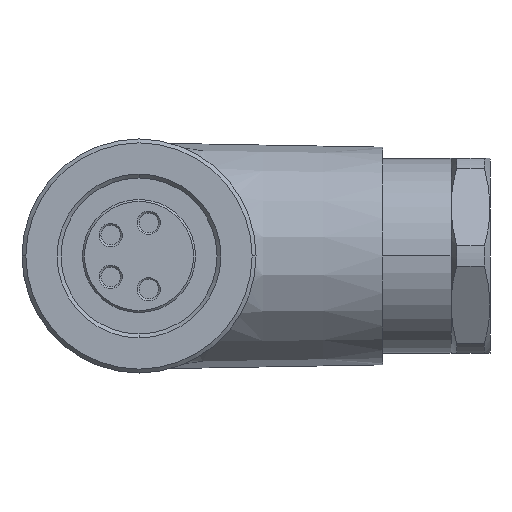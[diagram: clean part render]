
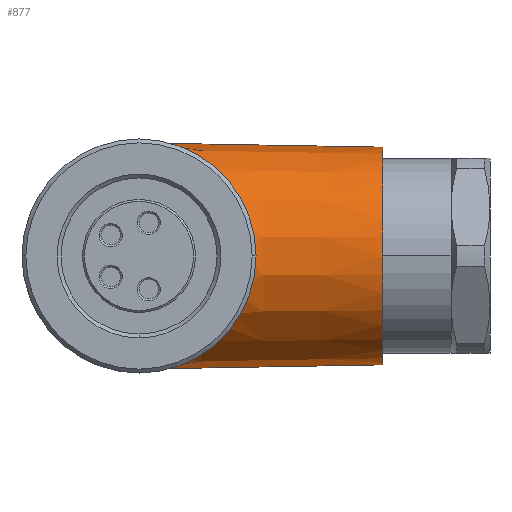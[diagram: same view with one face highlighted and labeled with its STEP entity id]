
A CAD part, front view. The second image highlights one B-rep face of the part: STEP entity #877.
In plain terms, the highlighted conical face has half-angle 1 degrees and reference radius 5.691 mm.
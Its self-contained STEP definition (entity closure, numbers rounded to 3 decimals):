
#6 = CARTESIAN_POINT ( 'NONE',  ( 12.5, 14., 5.582 ) ) ;
#13 = VECTOR ( 'NONE', #209, 1000. ) ;
#39 = VERTEX_POINT ( 'NONE', #6 ) ;
#60 = CARTESIAN_POINT ( 'NONE',  ( 1.742, 12.362, 5.542 ) ) ;
#82 = CARTESIAN_POINT ( 'NONE',  ( 4.458, 9.644, 3.716 ) ) ;
#106 = CARTESIAN_POINT ( 'NONE',  ( 5.8, 8.301, 0. ) ) ;
#115 = EDGE_CURVE ( 'NONE', #1540, #2723, #2311, .T. ) ;
#119 = CARTESIAN_POINT ( 'NONE',  ( 3.533, 10.569, -4.614 ) ) ;
#141 = CARTESIAN_POINT ( 'NONE',  ( 5.8, 8.301, 0. ) ) ;
#209 = DIRECTION ( 'NONE',  ( -1., 0., -0.017 ) ) ;
#316 = CARTESIAN_POINT ( 'NONE',  ( 5.12, 8.982, 2.733 ) ) ;
#326 = CARTESIAN_POINT ( 'NONE',  ( 0.79, 13.318, -5.748 ) ) ;
#328 = CARTESIAN_POINT ( 'NONE',  ( 0.473, 13.641, 5.781 ) ) ;
#338 = CARTESIAN_POINT ( 'NONE',  ( 0.551, 13.561, -5.774 ) ) ;
#350 = CARTESIAN_POINT ( 'NONE',  ( 2.354, 11.749, -5.311 ) ) ;
#357 = B_SPLINE_CURVE_WITH_KNOTS ( 'NONE', 3,
 ( #568, #1801, #3104, #631, #838, #2614, #582, #3080, #338, #326, #604, #594, #361, #350, #2117, #3124, #119, #1576, #1131, #1587, #371, #1349, #1341, #2340, #2385, #1120, #851, #106 ),
 .UNSPECIFIED., .F., .F.,
 ( 4, 2, 2, 2, 2, 2, 2, 2, 2, 2, 2, 2, 2, 4 ),
 ( 0.011, 0.011, 0.011, 0.011, 0.011, 0.012, 0.013, 0.015, 0.016, 0.017, 0.019, 0.02, 0.021, 0.022 ),
 .UNSPECIFIED. ) ;
#360 = AXIS2_PLACEMENT_3D ( 'NONE', #3161, #3151, #935 ) ;
#361 = CARTESIAN_POINT ( 'NONE',  ( 1.736, 12.368, -5.544 ) ) ;
#371 = CARTESIAN_POINT ( 'NONE',  ( 5.026, 9.076, -2.926 ) ) ;
#383 = CARTESIAN_POINT ( 'NONE',  ( 6.25, 14., 0. ) ) ;
#460 = LINE ( 'NONE', #1336, #1683 ) ;
#552 = CARTESIAN_POINT ( 'NONE',  ( 0.356, 13.765, 5.789 ) ) ;
#564 = CARTESIAN_POINT ( 'NONE',  ( 3.944, 10.158, 4.256 ) ) ;
#568 = CARTESIAN_POINT ( 'NONE',  ( 0.202, 14., -5.796 ) ) ;
#571 = CARTESIAN_POINT ( 'NONE',  ( 0.318, 13.807, 5.791 ) ) ;
#582 = CARTESIAN_POINT ( 'NONE',  ( 0.356, 13.766, -5.789 ) ) ;
#594 = CARTESIAN_POINT ( 'NONE',  ( 1.424, 12.681, -5.632 ) ) ;
#604 = CARTESIAN_POINT ( 'NONE',  ( 0.949, 13.158, -5.724 ) ) ;
#615 = CARTESIAN_POINT ( 'NONE',  ( 12.5, 14., -5.582 ) ) ;
#631 = CARTESIAN_POINT ( 'NONE',  ( 0.245, 13.896, -5.795 ) ) ;
#684 = VERTEX_POINT ( 'NONE', #615 ) ;
#689 = LINE ( 'NONE', #1468, #13 ) ;
#747 = EDGE_CURVE ( 'NONE', #39, #2723, #460, .T. ) ;
#829 = CARTESIAN_POINT ( 'NONE',  ( 5.302, 8.799, 2.36 ) ) ;
#838 = CARTESIAN_POINT ( 'NONE',  ( 0.263, 13.873, -5.794 ) ) ;
#841 = CARTESIAN_POINT ( 'NONE',  ( 0.79, 13.317, 5.748 ) ) ;
#851 = CARTESIAN_POINT ( 'NONE',  ( 5.8, 8.301, -0.229 ) ) ;
#877 = ADVANCED_FACE ( 'NONE', ( #1476 ), #1248, .T. ) ;
#925 = DIRECTION ( 'NONE',  ( -1., 0., 0. ) ) ;
#935 = DIRECTION ( 'NONE',  ( 0., 0., -1. ) ) ;
#1029 = CARTESIAN_POINT ( 'NONE',  ( 0.202, 14., 5.796 ) ) ;
#1073 = CARTESIAN_POINT ( 'NONE',  ( 2.362, 11.741, 5.308 ) ) ;
#1089 = CIRCLE ( 'NONE', #360, 5.582 ) ;
#1120 = CARTESIAN_POINT ( 'NONE',  ( 5.786, 8.315, -0.456 ) ) ;
#1131 = CARTESIAN_POINT ( 'NONE',  ( 4.338, 9.764, -3.869 ) ) ;
#1248 = CONICAL_SURFACE ( 'NONE', #3044, 5.691, 0.017 ) ;
#1304 = CARTESIAN_POINT ( 'NONE',  ( 4.806, 9.295, 3.253 ) ) ;
#1315 = CARTESIAN_POINT ( 'NONE',  ( 5.8, 8.301, 0.459 ) ) ;
#1329 = CARTESIAN_POINT ( 'NONE',  ( 3.25, 10.853, 4.816 ) ) ;
#1336 = CARTESIAN_POINT ( 'NONE',  ( 6.25, 14., 5.691 ) ) ;
#1341 = CARTESIAN_POINT ( 'NONE',  ( 5.54, 8.561, -1.773 ) ) ;
#1349 = CARTESIAN_POINT ( 'NONE',  ( 5.393, 8.708, -2.174 ) ) ;
#1352 = CARTESIAN_POINT ( 'NONE',  ( 4.694, 9.408, 3.413 ) ) ;
#1443 = CARTESIAN_POINT ( 'NONE',  ( 0.202, 14., -5.796 ) ) ;
#1468 = CARTESIAN_POINT ( 'NONE',  ( 6.25, 14., -5.691 ) ) ;
#1476 = FACE_OUTER_BOUND ( 'NONE', #2284, .T. ) ;
#1540 = VERTEX_POINT ( 'NONE', #141 ) ;
#1567 = CARTESIAN_POINT ( 'NONE',  ( 4.334, 9.767, 3.858 ) ) ;
#1576 = CARTESIAN_POINT ( 'NONE',  ( 4.077, 10.025, -4.141 ) ) ;
#1579 = CARTESIAN_POINT ( 'NONE',  ( 0.216, 13.943, 5.796 ) ) ;
#1587 = CARTESIAN_POINT ( 'NONE',  ( 4.811, 9.29, -3.262 ) ) ;
#1650 = ORIENTED_EDGE ( 'NONE', *, *, #2045, .F. ) ;
#1683 = VECTOR ( 'NONE', #3090, 1000. ) ;
#1766 = ORIENTED_EDGE ( 'NONE', *, *, #747, .T. ) ;
#1801 = CARTESIAN_POINT ( 'NONE',  ( 0.202, 13.972, -5.796 ) ) ;
#1814 = CARTESIAN_POINT ( 'NONE',  ( 5.385, 8.717, 2.166 ) ) ;
#1836 = CARTESIAN_POINT ( 'NONE',  ( 5.746, 8.355, 0.903 ) ) ;
#1852 = CARTESIAN_POINT ( 'NONE',  ( 2.664, 11.439, 5.163 ) ) ;
#2045 = EDGE_CURVE ( 'NONE', #3043, #1540, #357, .T. ) ;
#2061 = CARTESIAN_POINT ( 'NONE',  ( 5.019, 9.082, 2.914 ) ) ;
#2076 = CARTESIAN_POINT ( 'NONE',  ( 1.426, 12.678, 5.631 ) ) ;
#2117 = CARTESIAN_POINT ( 'NONE',  ( 2.66, 11.443, -5.166 ) ) ;
#2218 = EDGE_CURVE ( 'NONE', #684, #3043, #689, .T. ) ;
#2284 = EDGE_LOOP ( 'NONE', ( #3106, #2591, #1766, #2373, #1650 ) ) ;
#2307 = CARTESIAN_POINT ( 'NONE',  ( 0.202, 14., 5.796 ) ) ;
#2311 = B_SPLINE_CURVE_WITH_KNOTS ( 'NONE', 3,
 ( #2570, #1315, #1836, #3070, #2585, #1814, #829, #316, #2061, #1304, #1352, #82, #1567, #2343, #564, #2317, #1329, #1852, #1073, #60, #2076, #2839, #841, #2862, #328, #552, #571, #2329, #3082, #1579, #2594, #2307 ),
 .UNSPECIFIED., .F., .F.,
 ( 4, 2, 2, 2, 2, 2, 2, 2, 2, 2, 2, 2, 2, 2, 2, 4 ),
 ( 0.022, 0.023, 0.024, 0.024, 0.025, 0.026, 0.026, 0.027, 0.028, 0.03, 0.031, 0.032, 0.032, 0.032, 0.032, 0.032 ),
 .UNSPECIFIED. ) ;
#2317 = CARTESIAN_POINT ( 'NONE',  ( 3.534, 10.568, 4.613 ) ) ;
#2329 = CARTESIAN_POINT ( 'NONE',  ( 0.264, 13.872, 5.794 ) ) ;
#2340 = CARTESIAN_POINT ( 'NONE',  ( 5.694, 8.407, -1.126 ) ) ;
#2343 = CARTESIAN_POINT ( 'NONE',  ( 4.078, 10.024, 4.129 ) ) ;
#2373 = ORIENTED_EDGE ( 'NONE', *, *, #115, .F. ) ;
#2385 = CARTESIAN_POINT ( 'NONE',  ( 5.734, 8.368, -0.903 ) ) ;
#2475 = EDGE_CURVE ( 'NONE', #39, #684, #1089, .T. ) ;
#2570 = CARTESIAN_POINT ( 'NONE',  ( 5.8, 8.301, 0. ) ) ;
#2585 = CARTESIAN_POINT ( 'NONE',  ( 5.53, 8.571, 1.762 ) ) ;
#2591 = ORIENTED_EDGE ( 'NONE', *, *, #2475, .F. ) ;
#2594 = CARTESIAN_POINT ( 'NONE',  ( 0.202, 13.971, 5.796 ) ) ;
#2614 = CARTESIAN_POINT ( 'NONE',  ( 0.317, 13.808, -5.791 ) ) ;
#2723 = VERTEX_POINT ( 'NONE', #1029 ) ;
#2839 = CARTESIAN_POINT ( 'NONE',  ( 0.95, 13.157, 5.724 ) ) ;
#2862 = CARTESIAN_POINT ( 'NONE',  ( 0.552, 13.56, 5.774 ) ) ;
#2897 = DIRECTION ( 'NONE',  ( 0., 0., 1. ) ) ;
#3043 = VERTEX_POINT ( 'NONE', #1443 ) ;
#3044 = AXIS2_PLACEMENT_3D ( 'NONE', #383, #925, #2897 ) ;
#3070 = CARTESIAN_POINT ( 'NONE',  ( 5.593, 8.508, 1.551 ) ) ;
#3080 = CARTESIAN_POINT ( 'NONE',  ( 0.472, 13.642, -5.781 ) ) ;
#3082 = CARTESIAN_POINT ( 'NONE',  ( 0.246, 13.895, 5.795 ) ) ;
#3090 = DIRECTION ( 'NONE',  ( -1., 0., 0.017 ) ) ;
#3104 = CARTESIAN_POINT ( 'NONE',  ( 0.215, 13.944, -5.796 ) ) ;
#3106 = ORIENTED_EDGE ( 'NONE', *, *, #2218, .F. ) ;
#3124 = CARTESIAN_POINT ( 'NONE',  ( 3.249, 10.853, -4.817 ) ) ;
#3151 = DIRECTION ( 'NONE',  ( 1., 0., 0. ) ) ;
#3161 = CARTESIAN_POINT ( 'NONE',  ( 12.5, 14., 0. ) ) ;
